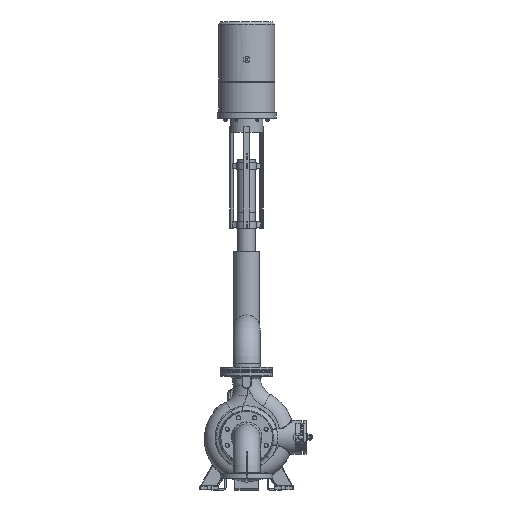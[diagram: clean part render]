
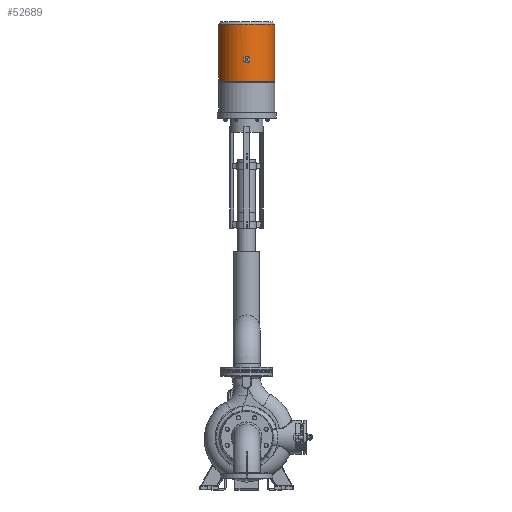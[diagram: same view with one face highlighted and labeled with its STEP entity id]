
A CAD part, front view. The second image highlights one B-rep face of the part: STEP entity #52689.
In plain terms, the highlighted cylindrical face has radius 120 mm (diameter 240 mm), a full revolution.
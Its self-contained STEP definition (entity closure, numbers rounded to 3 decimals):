
#3077=FACE_BOUND('',#11899,.T.);
#4347=ELLIPSE('',#59800,138.564,120.);
#4348=ELLIPSE('',#59803,138.564,120.);
#4349=ELLIPSE('',#59812,138.564,120.);
#4350=ELLIPSE('',#59814,138.564,120.);
#8369=FACE_OUTER_BOUND('',#11898,.T.);
#11898=EDGE_LOOP('',(#48591,#48592,#48593,#48594,#48595,#48596));
#11899=EDGE_LOOP('',(#48597,#48598,#48599,#48600,#48601,#48602));
#15721=LINE('',#135162,#18204);
#15726=LINE('',#135188,#18209);
#15727=LINE('',#135195,#18210);
#18204=VECTOR('',#74414,10.);
#18209=VECTOR('',#74447,10.);
#18210=VECTOR('',#74454,120.);
#21553=CIRCLE('',#59817,120.);
#21554=CIRCLE('',#59818,120.);
#21555=CIRCLE('',#59819,120.);
#21556=CIRCLE('',#59820,120.);
#26188=VERTEX_POINT('',#135154);
#26189=VERTEX_POINT('',#135156);
#26190=VERTEX_POINT('',#135160);
#26191=VERTEX_POINT('',#135164);
#26196=VERTEX_POINT('',#135180);
#26197=VERTEX_POINT('',#135184);
#26198=VERTEX_POINT('',#135190);
#26199=VERTEX_POINT('',#135191);
#26200=VERTEX_POINT('',#135194);
#26201=VERTEX_POINT('',#135196);
#33661=EDGE_CURVE('',#26189,#26188,#4347,.T.);
#33664=EDGE_CURVE('',#26188,#26190,#15721,.T.);
#33666=EDGE_CURVE('',#26190,#26191,#4348,.T.);
#33673=EDGE_CURVE('',#26191,#26196,#4349,.T.);
#33674=EDGE_CURVE('',#26197,#26189,#4350,.T.);
#33676=EDGE_CURVE('',#26196,#26197,#15726,.T.);
#33677=EDGE_CURVE('',#26198,#26199,#21553,.T.);
#33678=EDGE_CURVE('',#26199,#26198,#21554,.T.);
#33679=EDGE_CURVE('',#26199,#26200,#15727,.T.);
#33680=EDGE_CURVE('',#26200,#26201,#21555,.T.);
#33681=EDGE_CURVE('',#26201,#26200,#21556,.T.);
#48591=ORIENTED_EDGE('',*,*,#33677,.F.);
#48592=ORIENTED_EDGE('',*,*,#33678,.F.);
#48593=ORIENTED_EDGE('',*,*,#33679,.T.);
#48594=ORIENTED_EDGE('',*,*,#33680,.T.);
#48595=ORIENTED_EDGE('',*,*,#33681,.T.);
#48596=ORIENTED_EDGE('',*,*,#33679,.F.);
#48597=ORIENTED_EDGE('',*,*,#33664,.T.);
#48598=ORIENTED_EDGE('',*,*,#33666,.T.);
#48599=ORIENTED_EDGE('',*,*,#33673,.T.);
#48600=ORIENTED_EDGE('',*,*,#33676,.T.);
#48601=ORIENTED_EDGE('',*,*,#33674,.T.);
#48602=ORIENTED_EDGE('',*,*,#33661,.T.);
#49587=CYLINDRICAL_SURFACE('',#59816,120.);
#52689=ADVANCED_FACE('',(#8369,#3077),#49587,.T.);
#59800=AXIS2_PLACEMENT_3D('',#135157,#74408,#74409);
#59803=AXIS2_PLACEMENT_3D('',#135166,#74418,#74419);
#59812=AXIS2_PLACEMENT_3D('',#135182,#74438,#74439);
#59814=AXIS2_PLACEMENT_3D('',#135185,#74442,#74443);
#59816=AXIS2_PLACEMENT_3D('',#135189,#74448,#74449);
#59817=AXIS2_PLACEMENT_3D('',#135192,#74450,#74451);
#59818=AXIS2_PLACEMENT_3D('',#135193,#74452,#74453);
#59819=AXIS2_PLACEMENT_3D('',#135197,#74455,#74456);
#59820=AXIS2_PLACEMENT_3D('',#135198,#74457,#74458);
#74408=DIRECTION('center_axis',(0.5,0.,-0.866));
#74409=DIRECTION('ref_axis',(0.866,0.,0.5));
#74414=DIRECTION('',(0.,0.,1.));
#74418=DIRECTION('center_axis',(0.5,0.,0.866));
#74419=DIRECTION('ref_axis',(0.866,0.,-0.5));
#74438=DIRECTION('center_axis',(-0.5,0.,0.866));
#74439=DIRECTION('ref_axis',(0.866,0.,0.5));
#74442=DIRECTION('center_axis',(-0.5,0.,-0.866));
#74443=DIRECTION('ref_axis',(0.866,0.,-0.5));
#74447=DIRECTION('',(0.,0.,-1.));
#74448=DIRECTION('center_axis',(0.,0.,1.));
#74449=DIRECTION('ref_axis',(1.,0.,0.));
#74450=DIRECTION('center_axis',(0.,0.,1.));
#74451=DIRECTION('ref_axis',(-1.,0.,0.));
#74452=DIRECTION('center_axis',(0.,0.,1.));
#74453=DIRECTION('ref_axis',(-1.,0.,0.));
#74454=DIRECTION('',(0.,0.,-1.));
#74455=DIRECTION('center_axis',(0.,0.,1.));
#74456=DIRECTION('ref_axis',(1.,0.,0.));
#74457=DIRECTION('center_axis',(0.,0.,1.));
#74458=DIRECTION('ref_axis',(1.,0.,0.));
#135154=CARTESIAN_POINT('',(12.5,119.347,242.783));
#135156=CARTESIAN_POINT('',(0.,120.,235.566));
#135157=CARTESIAN_POINT('Origin',(0.,0.,235.566));
#135160=CARTESIAN_POINT('',(12.5,119.347,257.217));
#135162=CARTESIAN_POINT('',(12.5,119.347,0.));
#135164=CARTESIAN_POINT('',(0.,120.,264.434));
#135166=CARTESIAN_POINT('Origin',(0.,0.,264.434));
#135180=CARTESIAN_POINT('',(-12.5,119.347,257.217));
#135182=CARTESIAN_POINT('Origin',(0.,0.,264.434));
#135184=CARTESIAN_POINT('',(-12.5,119.347,242.783));
#135185=CARTESIAN_POINT('Origin',(0.,0.,235.566));
#135188=CARTESIAN_POINT('',(-12.5,119.347,0.));
#135189=CARTESIAN_POINT('Origin',(0.,0.,0.));
#135190=CARTESIAN_POINT('',(120.,0.,400.));
#135191=CARTESIAN_POINT('',(-120.,0.,400.));
#135192=CARTESIAN_POINT('Origin',(0.,0.,400.));
#135193=CARTESIAN_POINT('Origin',(0.,0.,400.));
#135194=CARTESIAN_POINT('',(-120.,0.,158.));
#135195=CARTESIAN_POINT('',(-120.,0.,0.));
#135196=CARTESIAN_POINT('',(0.,-120.,158.));
#135197=CARTESIAN_POINT('Origin',(0.,0.,158.));
#135198=CARTESIAN_POINT('Origin',(0.,0.,158.));
